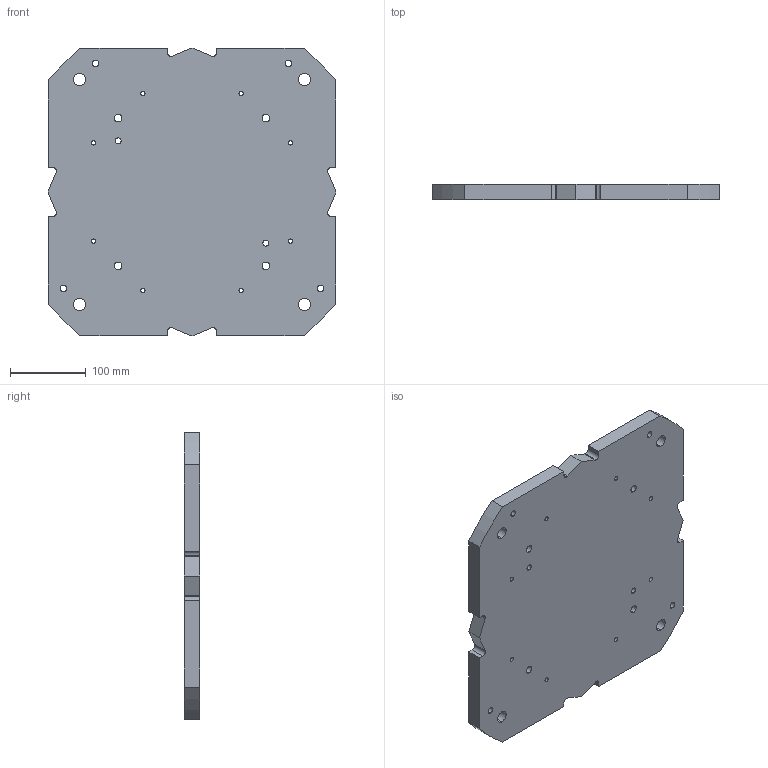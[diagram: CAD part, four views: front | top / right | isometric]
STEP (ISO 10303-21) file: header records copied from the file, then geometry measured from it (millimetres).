
FILE_DESCRIPTION (( 'STEP AP214' ), '1' );
FILE_NAME ('E-baseplate.STEP', '2025-12-05T11:47:17', ( '' ), ( '' ), 'SwSTEP 2.0', 'SolidWorks 2022', '' );
FILE_SCHEMA (( 'AUTOMOTIVE_DESIGN' ));
Length unit declared in the file: millimetre
Products named in the file (1): E-baseplate
Bounding box: 380 x 20 x 380 mm (x, y, z)
Volume: 2752561.3 mm3; surface area: 318138 mm2
Topology: 1 solids, 1 shells, 90 faces, 264 edges, 176 vertices
Faces by surface type: cylinder 64, plane 26
Entity records: 3354 total; most frequent: DIRECTION 574, CARTESIAN_POINT 531, ORIENTED_EDGE 528, EDGE_CURVE 264, AXIS2_PLACEMENT_3D 219, VERTEX_POINT 176, LINE 136, VECTOR 136
